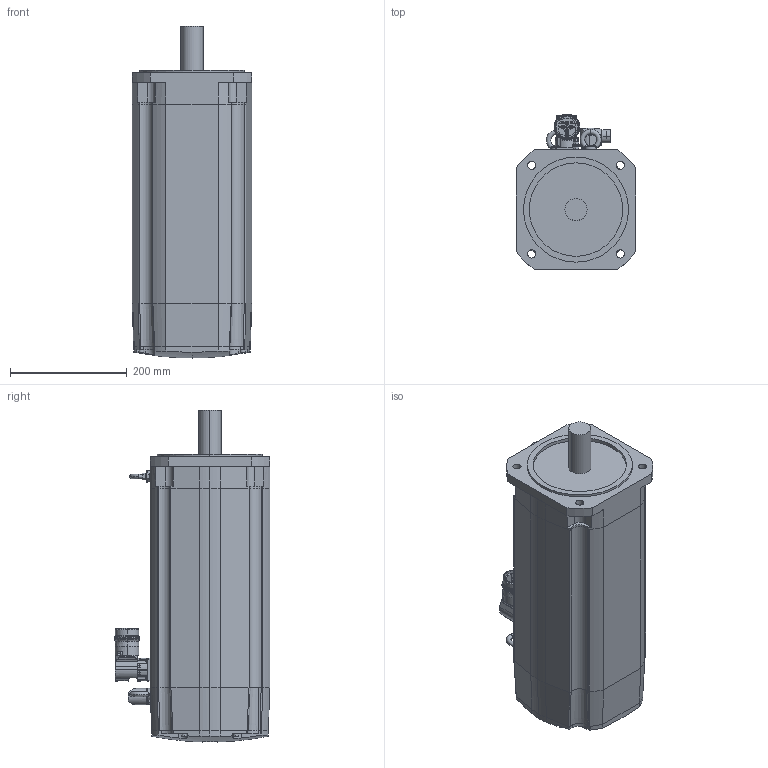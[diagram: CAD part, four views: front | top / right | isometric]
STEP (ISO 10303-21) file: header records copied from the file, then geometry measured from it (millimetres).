
FILE_DESCRIPTION (( 'STEP AP214' ), '1' );
FILE_NAME ('SH32053x0xA2100.STEP', '2013-11-29T13:15:07', ( 'Windows User' ), ( 'Schneider-Electric' ), 'SwSTEP 2.0', 'SolidWorks 2010', '' );
FILE_SCHEMA (( 'AUTOMOTIVE_DESIGN' ));
Length unit declared in the file: millimetre
Products named in the file (9): 1-100011024_K-FLANSCH SH205X_000_Flansch mit Welle ohne Passfedernut; 1-100011023_K-GEHÄUSE SH3-205X_000_Gehäuse stack 3 ohne Bremse; 1-100011025_K-LAGERSCHILD SH205X_000; 1-100011027_K-DECKEL SH205_000; 1-100009587_K-ERDUNGSBOLZEN M6_VM1; Ringschraube DIN 580 M 8     0000019855011; K-ENCODER-CONINVERS-ABGEW_ENCODER-CONINVERS-ABGEWINKELT_000_Single- MultiTurn; 1-100010211_POWER M40 ABGEWINKELT VEREINFACHT_000_ohne Bremse; SH32053x0xA2100
Assembly tree (9 placements, depth 2):
  SH32053x0xA2100
    1-100011027_K-DECKEL SH205_000
    1-100010211_POWER M40 ABGEWINKELT VEREINFACHT_000_ohne Bremse
    Ringschraube DIN 580 M 8     0000019855011  x2
    1-100011023_K-GEHÄUSE SH3-205X_000_Gehäuse stack 3 ohne Bremse
    1-100011024_K-FLANSCH SH205X_000_Flansch mit Welle ohne Passfedernut
    K-ENCODER-CONINVERS-ABGEW_ENCODER-CONINVERS-ABGEWINKELT_000_Single- MultiTurn
    1-100011025_K-LAGERSCHILD SH205X_000
    1-100009587_K-ERDUNGSBOLZEN M6_VM1
Bounding box: 205 x 266.5 x 568.83 mm (x, y, z)
Volume: 17354682.8 mm3; surface area: 693009.6 mm2
Topology: 9 solids, 9 shells, 776 faces, 1955 edges, 1253 vertices
Faces by surface type: cylinder 321, plane 304, bspline 74, cone 45, torus 28, sphere 4
Entity records: 30253 total; most frequent: CARTESIAN_POINT 8018, DIRECTION 3828, ORIENTED_EDGE 3746, EDGE_CURVE 1873, AXIS2_PLACEMENT_3D 1471, VERTEX_POINT 1214, LINE 886, VECTOR 886
